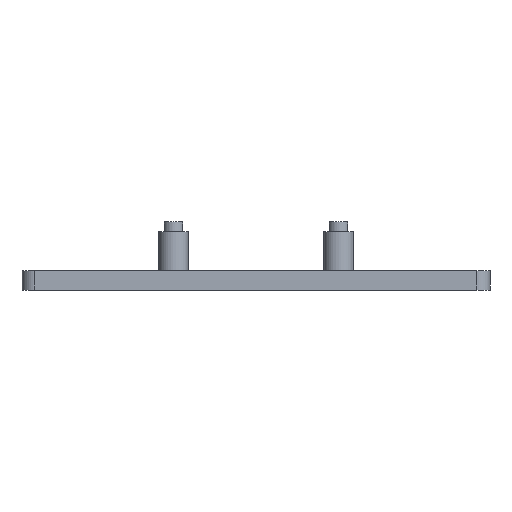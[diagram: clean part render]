
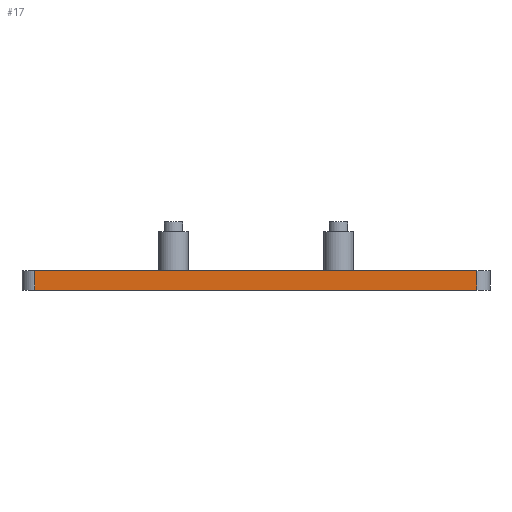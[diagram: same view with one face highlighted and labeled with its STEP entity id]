
A CAD part, left-side view. The second image highlights one B-rep face of the part: STEP entity #17.
In plain terms, the highlighted planar face has unit normal (-1, 0, 0).
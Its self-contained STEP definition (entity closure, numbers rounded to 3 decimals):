
#17 = ADVANCED_FACE('',(#18),#32,.F.);
#18 = FACE_BOUND('',#19,.F.);
#19 = EDGE_LOOP('',(#20,#55,#83,#111));
#20 = ORIENTED_EDGE('',*,*,#21,.F.);
#21 = EDGE_CURVE('',#22,#24,#26,.T.);
#22 = VERTEX_POINT('',#23);
#23 = CARTESIAN_POINT('',(-58.,-34.,3.));
#24 = VERTEX_POINT('',#25);
#25 = CARTESIAN_POINT('',(-58.,34.,3.));
#26 = SURFACE_CURVE('',#27,(#31,#43),.PCURVE_S1.);
#27 = LINE('',#28,#29);
#28 = CARTESIAN_POINT('',(-58.,-36.,3.));
#29 = VECTOR('',#30,1.);
#30 = DIRECTION('',(0.,1.,0.));
#31 = PCURVE('',#32,#37);
#32 = PLANE('',#33);
#33 = AXIS2_PLACEMENT_3D('',#34,#35,#36);
#34 = CARTESIAN_POINT('',(-58.,-36.,0.));
#35 = DIRECTION('',(1.,0.,0.));
#36 = DIRECTION('',(0.,0.,1.));
#37 = DEFINITIONAL_REPRESENTATION('',(#38),#42);
#38 = LINE('',#39,#40);
#39 = CARTESIAN_POINT('',(3.,0.));
#40 = VECTOR('',#41,1.);
#41 = DIRECTION('',(0.,-1.));
#42 = ( GEOMETRIC_REPRESENTATION_CONTEXT(2) 
PARAMETRIC_REPRESENTATION_CONTEXT() REPRESENTATION_CONTEXT('2D SPACE',''
  ) );
#43 = PCURVE('',#44,#49);
#44 = PLANE('',#45);
#45 = AXIS2_PLACEMENT_3D('',#46,#47,#48);
#46 = CARTESIAN_POINT('',(-58.,-36.,3.));
#47 = DIRECTION('',(0.,0.,1.));
#48 = DIRECTION('',(1.,0.,0.));
#49 = DEFINITIONAL_REPRESENTATION('',(#50),#54);
#50 = LINE('',#51,#52);
#51 = CARTESIAN_POINT('',(0.,0.));
#52 = VECTOR('',#53,1.);
#53 = DIRECTION('',(0.,1.));
#54 = ( GEOMETRIC_REPRESENTATION_CONTEXT(2) 
PARAMETRIC_REPRESENTATION_CONTEXT() REPRESENTATION_CONTEXT('2D SPACE',''
  ) );
#55 = ORIENTED_EDGE('',*,*,#56,.F.);
#56 = EDGE_CURVE('',#57,#22,#59,.T.);
#57 = VERTEX_POINT('',#58);
#58 = CARTESIAN_POINT('',(-58.,-34.,0.));
#59 = SURFACE_CURVE('',#60,(#64,#71),.PCURVE_S1.);
#60 = LINE('',#61,#62);
#61 = CARTESIAN_POINT('',(-58.,-34.,0.));
#62 = VECTOR('',#63,1.);
#63 = DIRECTION('',(0.,0.,1.));
#64 = PCURVE('',#32,#65);
#65 = DEFINITIONAL_REPRESENTATION('',(#66),#70);
#66 = LINE('',#67,#68);
#67 = CARTESIAN_POINT('',(0.,-2.));
#68 = VECTOR('',#69,1.);
#69 = DIRECTION('',(1.,0.));
#70 = ( GEOMETRIC_REPRESENTATION_CONTEXT(2) 
PARAMETRIC_REPRESENTATION_CONTEXT() REPRESENTATION_CONTEXT('2D SPACE',''
  ) );
#71 = PCURVE('',#72,#77);
#72 = CYLINDRICAL_SURFACE('',#73,2.);
#73 = AXIS2_PLACEMENT_3D('',#74,#75,#76);
#74 = CARTESIAN_POINT('',(-56.,-34.,0.));
#75 = DIRECTION('',(0.,0.,1.));
#76 = DIRECTION('',(-1.,-0.,0.));
#77 = DEFINITIONAL_REPRESENTATION('',(#78),#82);
#78 = LINE('',#79,#80);
#79 = CARTESIAN_POINT('',(0.,0.));
#80 = VECTOR('',#81,1.);
#81 = DIRECTION('',(0.,1.));
#82 = ( GEOMETRIC_REPRESENTATION_CONTEXT(2) 
PARAMETRIC_REPRESENTATION_CONTEXT() REPRESENTATION_CONTEXT('2D SPACE',''
  ) );
#83 = ORIENTED_EDGE('',*,*,#84,.T.);
#84 = EDGE_CURVE('',#57,#85,#87,.T.);
#85 = VERTEX_POINT('',#86);
#86 = CARTESIAN_POINT('',(-58.,34.,0.));
#87 = SURFACE_CURVE('',#88,(#92,#99),.PCURVE_S1.);
#88 = LINE('',#89,#90);
#89 = CARTESIAN_POINT('',(-58.,-36.,0.));
#90 = VECTOR('',#91,1.);
#91 = DIRECTION('',(0.,1.,0.));
#92 = PCURVE('',#32,#93);
#93 = DEFINITIONAL_REPRESENTATION('',(#94),#98);
#94 = LINE('',#95,#96);
#95 = CARTESIAN_POINT('',(0.,0.));
#96 = VECTOR('',#97,1.);
#97 = DIRECTION('',(0.,-1.));
#98 = ( GEOMETRIC_REPRESENTATION_CONTEXT(2) 
PARAMETRIC_REPRESENTATION_CONTEXT() REPRESENTATION_CONTEXT('2D SPACE',''
  ) );
#99 = PCURVE('',#100,#105);
#100 = PLANE('',#101);
#101 = AXIS2_PLACEMENT_3D('',#102,#103,#104);
#102 = CARTESIAN_POINT('',(-58.,-36.,0.));
#103 = DIRECTION('',(0.,0.,1.));
#104 = DIRECTION('',(1.,0.,0.));
#105 = DEFINITIONAL_REPRESENTATION('',(#106),#110);
#106 = LINE('',#107,#108);
#107 = CARTESIAN_POINT('',(0.,0.));
#108 = VECTOR('',#109,1.);
#109 = DIRECTION('',(0.,1.));
#110 = ( GEOMETRIC_REPRESENTATION_CONTEXT(2) 
PARAMETRIC_REPRESENTATION_CONTEXT() REPRESENTATION_CONTEXT('2D SPACE',''
  ) );
#111 = ORIENTED_EDGE('',*,*,#112,.T.);
#112 = EDGE_CURVE('',#85,#24,#113,.T.);
#113 = SURFACE_CURVE('',#114,(#118,#125),.PCURVE_S1.);
#114 = LINE('',#115,#116);
#115 = CARTESIAN_POINT('',(-58.,34.,0.));
#116 = VECTOR('',#117,1.);
#117 = DIRECTION('',(0.,0.,1.));
#118 = PCURVE('',#32,#119);
#119 = DEFINITIONAL_REPRESENTATION('',(#120),#124);
#120 = LINE('',#121,#122);
#121 = CARTESIAN_POINT('',(0.,-70.));
#122 = VECTOR('',#123,1.);
#123 = DIRECTION('',(1.,0.));
#124 = ( GEOMETRIC_REPRESENTATION_CONTEXT(2) 
PARAMETRIC_REPRESENTATION_CONTEXT() REPRESENTATION_CONTEXT('2D SPACE',''
  ) );
#125 = PCURVE('',#126,#131);
#126 = CYLINDRICAL_SURFACE('',#127,2.);
#127 = AXIS2_PLACEMENT_3D('',#128,#129,#130);
#128 = CARTESIAN_POINT('',(-56.,34.,0.));
#129 = DIRECTION('',(0.,0.,1.));
#130 = DIRECTION('',(-1.,-0.,0.));
#131 = DEFINITIONAL_REPRESENTATION('',(#132),#136);
#132 = LINE('',#133,#134);
#133 = CARTESIAN_POINT('',(-0.,0.));
#134 = VECTOR('',#135,1.);
#135 = DIRECTION('',(-0.,1.));
#136 = ( GEOMETRIC_REPRESENTATION_CONTEXT(2) 
PARAMETRIC_REPRESENTATION_CONTEXT() REPRESENTATION_CONTEXT('2D SPACE',''
  ) );
